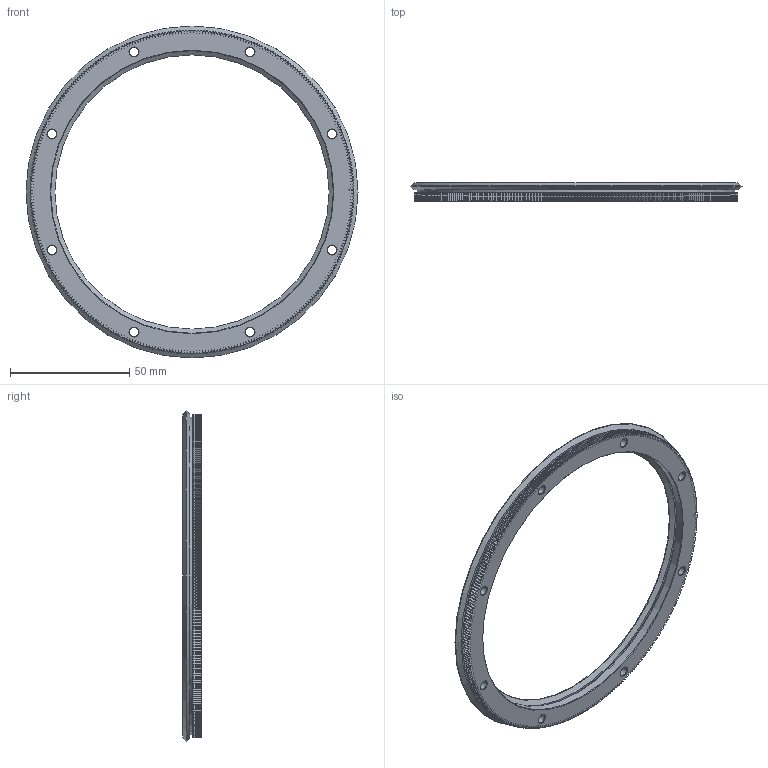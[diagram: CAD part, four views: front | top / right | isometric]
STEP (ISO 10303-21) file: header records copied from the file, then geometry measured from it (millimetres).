
FILE_DESCRIPTION( ( 'STEP AP203' ), '1' );
FILE_NAME( 'p:/temp/worker_71/temp/exporttempdir_3676_158_68Dbf/format_0/R12 127 R360 P.stp', '2021-08-30T04:10:09', ( 'License CC BY-ND 4.0' ), ( 'CADENAS' ), ' ', 'PARTsolutions', ' ' );
FILE_SCHEMA( ( 'CONFIG_CONTROL_DESIGN' ) );
Length unit declared in the file: millimetre
Products named in the file (1): _R12 127 R360 P
Bounding box: 139.1 x 7.7 x 139.1 mm (x, y, z)
Volume: 25527.4 mm3; surface area: 18346.5 mm2
Topology: 1 solids, 1 shells, 1393 faces, 4125 edges, 2745 vertices
Faces by surface type: plane 687, cylinder 355, cone 349, torus 2
Full cylindrical faces by diameter (mm): 3.7 x8, 6 x8, 118.4 x1, 120.6 x1, 133 x1
Entity records: 47180 total; most frequent: CARTESIAN_POINT 10245, ORIENTED_EDGE 8180, DIRECTION 7270, EDGE_CURVE 4090, VERTEX_POINT 2745, AXIS2_PLACEMENT_3D 2458, LINE 2354, VECTOR 2354
